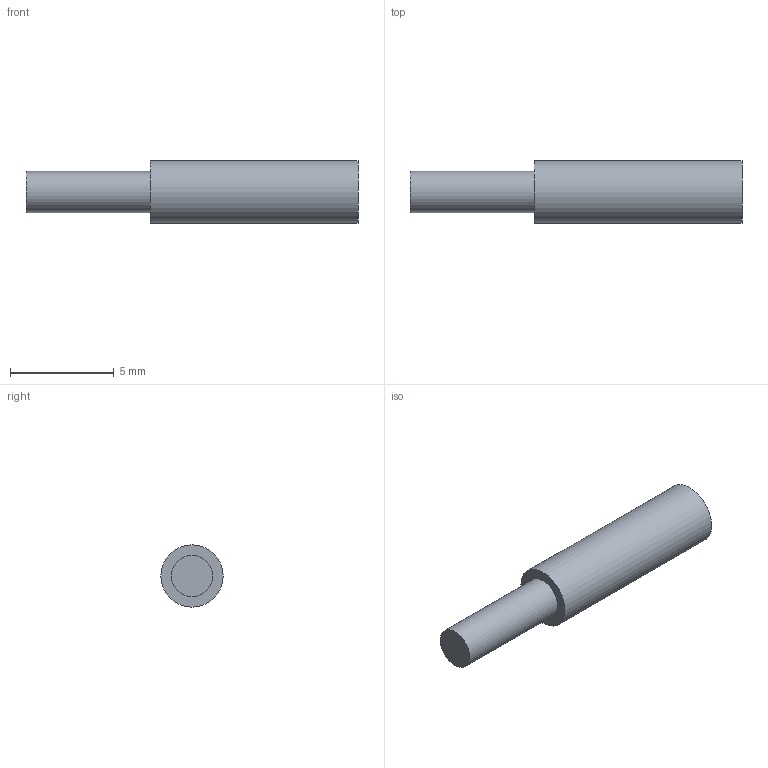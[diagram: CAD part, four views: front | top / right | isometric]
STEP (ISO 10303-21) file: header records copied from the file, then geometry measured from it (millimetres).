
FILE_DESCRIPTION(/* description */ ('STEP AP242 Edition 2','CAx-IF Rec.Pracs.---Representation and Presentation of Product Manufacturing Information (PMI)---4.0---2014-10-13','CAx-IF Rec.Pracs.---3D Tessellated Geometry---0.4---2014-09-14','2;1','CAx-IF Rec.Pracs.---User Defined Attributes---1.5---2016-08-15'),/* implementation_level */ '2;1');
FILE_NAME(/* name */ 'Part Studio 1 - spring_pin_l',/* time_stamp */ '2026-04-19T16:25:01Z',/* author */ (''),/* organization */ (''),/* preprocessor_version */ 'ST-DEVELOPER v20',/* originating_system */ 'ONSHAPE BY PTC INC, 1.213',/* authorisation */ ' ');
FILE_SCHEMA (('AP242_MANAGED_MODEL_BASED_3D_ENGINEERING_MIM_LF { 1 0 10303 442 3 1 4 }'));
Length unit declared in the file: metre
Products named in the file (1): spring_pin_l
Bounding box: 16 x 3 x 3 mm (x, y, z)
Volume: 89.5 mm3; surface area: 146.1 mm2
Topology: 1 solids, 1 shells, 5 faces, 6 edges, 4 vertices
Faces by surface type: plane 3, cylinder 2
Full cylindrical faces by diameter (mm): 2 x1, 3 x1
Entity records: 116 total; most frequent: DIRECTION 20, CARTESIAN_POINT 14, AXIS2_PLACEMENT_3D 10, ORIENTED_EDGE 8, EDGE_LOOP 8, FACE_BOUND 8, ADVANCED_FACE 5, EDGE_CURVE 4
